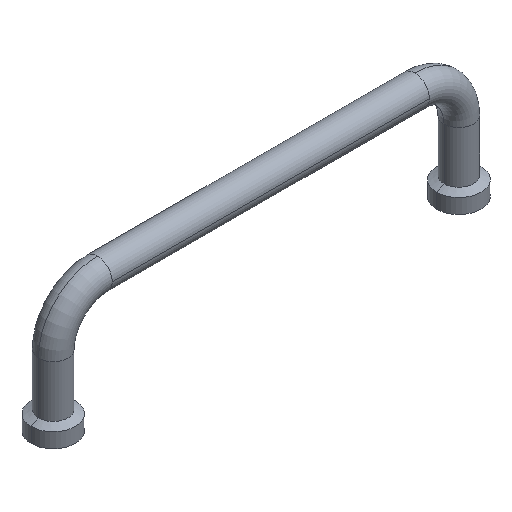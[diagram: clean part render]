
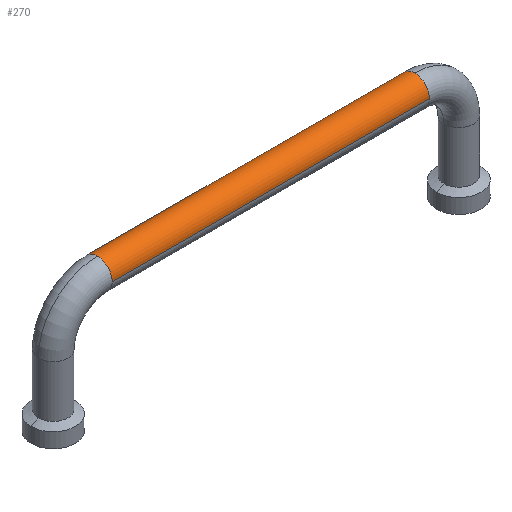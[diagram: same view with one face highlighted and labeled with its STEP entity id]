
A CAD part, isometric view. The second image highlights one B-rep face of the part: STEP entity #270.
In plain terms, the highlighted cylindrical face has radius 4 mm (diameter 8 mm), a partial arc.
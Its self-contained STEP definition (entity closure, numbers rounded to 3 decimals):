
#132=CARTESIAN_POINT('',(98.0,0.,35.0));
#133=VERTEX_POINT('',#132);
#159=CARTESIAN_POINT('',(98.0,4.,31.0));
#160=VERTEX_POINT('',#159);
#168=CARTESIAN_POINT('',(98.0,0.,31.0));
#169=DIRECTION('',(1.0,0.0,0.0));
#170=DIRECTION('',(0.0,1.0,0.0));
#171=AXIS2_PLACEMENT_3D('',#168,#169,#170);
#172=CIRCLE('',#171,4.0);
#173=EDGE_CURVE('',#160,#133,#172,.T.);
#185=CARTESIAN_POINT('',(12.0,0.,35.0));
#186=VERTEX_POINT('',#185);
#212=CARTESIAN_POINT('',(12.0,-4.,31.0));
#213=VERTEX_POINT('',#212);
#221=CARTESIAN_POINT('',(12.0,0.,31.0));
#222=DIRECTION('',(-1.0,0.0,0.0));
#223=DIRECTION('',(0.0,-1.0,0.0));
#224=AXIS2_PLACEMENT_3D('',#221,#222,#223);
#225=CIRCLE('',#224,4.0);
#226=EDGE_CURVE('',#213,#186,#225,.T.);
#231=CARTESIAN_POINT('',(76.5,0.,31.0));
#232=DIRECTION('',(1.0,0.0,0.0));
#233=DIRECTION('',(0.0,1.0,0.0));
#234=AXIS2_PLACEMENT_3D('',#231,#232,#233);
#235=CYLINDRICAL_SURFACE('',#234,4.0);
#236=CARTESIAN_POINT('',(12.0,4.,31.0));
#237=VERTEX_POINT('',#236);
#238=CARTESIAN_POINT('',(12.0,4.,31.0));
#239=DIRECTION('',(1.0,0.0,0.0));
#240=VECTOR('',#239,86.0);
#241=LINE('',#238,#240);
#242=EDGE_CURVE('',#237,#160,#241,.T.);
#243=ORIENTED_EDGE('',*,*,#242,.F.);
#244=CARTESIAN_POINT('',(12.0,0.,31.0));
#245=DIRECTION('',(-1.0,0.0,0.0));
#246=DIRECTION('',(0.0,-1.0,0.0));
#247=AXIS2_PLACEMENT_3D('',#244,#245,#246);
#248=CIRCLE('',#247,4.0);
#249=EDGE_CURVE('',#186,#237,#248,.T.);
#250=ORIENTED_EDGE('',*,*,#249,.F.);
#251=ORIENTED_EDGE('',*,*,#226,.F.);
#252=CARTESIAN_POINT('',(98.0,-4.,31.0));
#253=VERTEX_POINT('',#252);
#254=CARTESIAN_POINT('',(98.0,-4.,31.0));
#255=DIRECTION('',(-1.0,0.0,0.0));
#256=VECTOR('',#255,86.0);
#257=LINE('',#254,#256);
#258=EDGE_CURVE('',#253,#213,#257,.T.);
#259=ORIENTED_EDGE('',*,*,#258,.F.);
#260=CARTESIAN_POINT('',(98.0,0.,31.0));
#261=DIRECTION('',(1.0,0.0,0.0));
#262=DIRECTION('',(0.0,1.0,0.0));
#263=AXIS2_PLACEMENT_3D('',#260,#261,#262);
#264=CIRCLE('',#263,4.0);
#265=EDGE_CURVE('',#133,#253,#264,.T.);
#266=ORIENTED_EDGE('',*,*,#265,.F.);
#267=ORIENTED_EDGE('',*,*,#173,.F.);
#268=EDGE_LOOP('',(#243,#250,#251,#259,#266,#267));
#269=FACE_OUTER_BOUND('',#268,.T.);
#270=ADVANCED_FACE('',(#269),#235,.T.);
